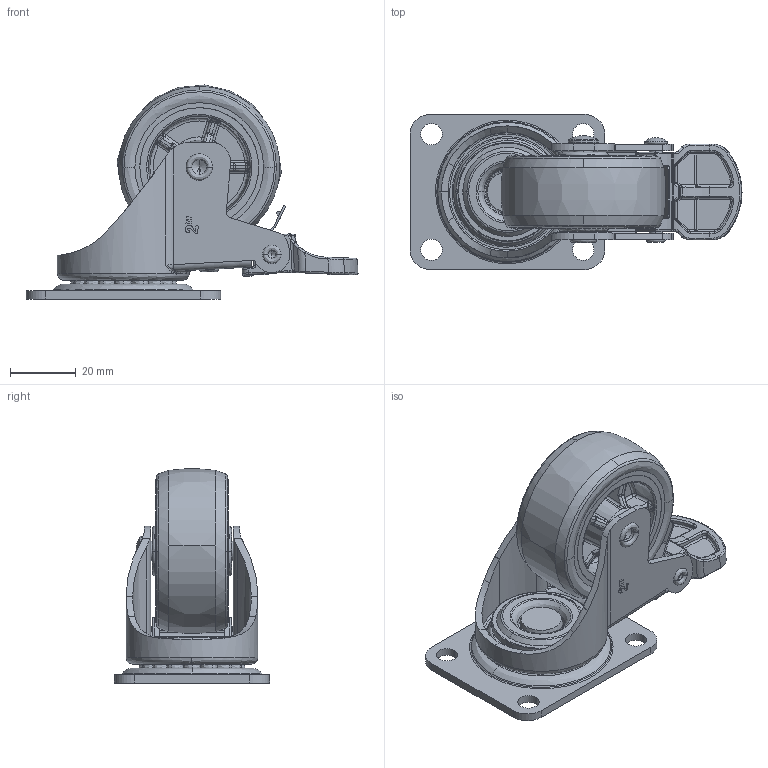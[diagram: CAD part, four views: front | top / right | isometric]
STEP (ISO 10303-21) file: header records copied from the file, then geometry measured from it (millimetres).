
FILE_DESCRIPTION (( 'STEP AP214' ), '1' );
FILE_NAME ('C01-01E-50-414.STEP', '2025-10-01T10:16:51', ( '' ), ( '' ), 'SwSTEP 2.0', 'SolidWorks 2022', '' );
FILE_SCHEMA (( 'AUTOMOTIVE_DESIGN' ));
Length unit declared in the file: millimetre
Products named in the file (1): C01-01E-50-414
Bounding box: 100.61 x 47 x 64.89 mm (x, y, z)
Volume: 59382.3 mm3; surface area: 48683.3 mm2
Topology: 44 solids, 44 shells, 1634 faces, 4278 edges, 2566 vertices
Faces by surface type: bspline 661, cylinder 461, plane 460, cone 52
Entity records: 86254 total; most frequent: CARTESIAN_POINT 34711, ORIENTED_EDGE 8128, DIRECTION 5061, EDGE_CURVE 4064, VERTEX_POINT 2566, AXIS2_PLACEMENT_3D 1913, EDGE_LOOP 1744, UNCERTAINTY_MEASURE_WITH_UNIT 1680
